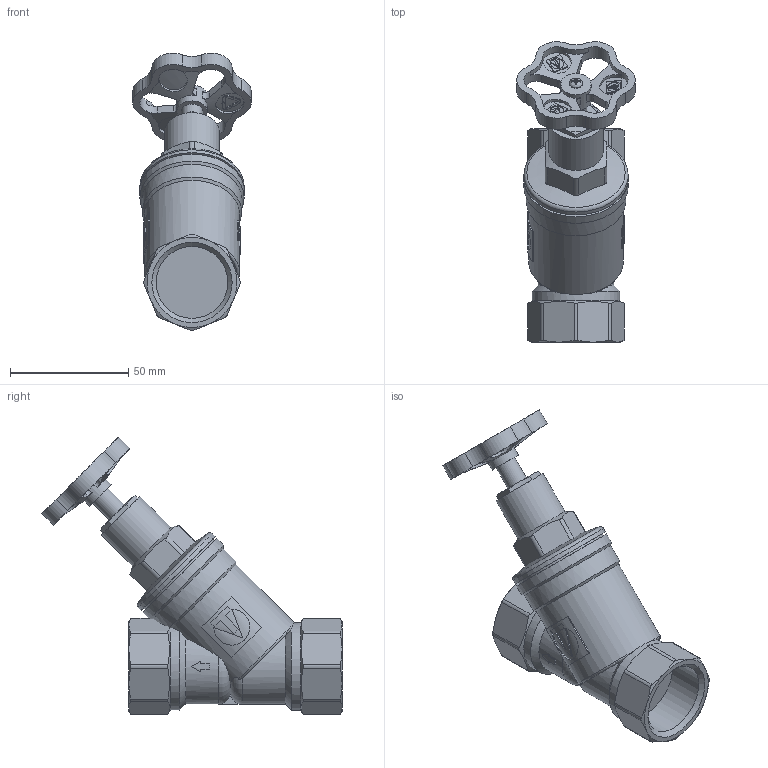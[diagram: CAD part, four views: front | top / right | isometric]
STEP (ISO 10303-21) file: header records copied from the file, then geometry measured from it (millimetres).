
FILE_DESCRIPTION(('STEP AP203'), '1');
FILE_NAME('VT.052.N.06', '', ('UNSPECIFIED'), ('UNSPECIFIED'), 'C3D Converter', 'C3D Toolkit', '');
FILE_SCHEMA(('CONFIG_CONTROL_DESIGN'));
Length unit declared in the file: millimetre
Products named in the file (1): ВР.491212.003.000 СБ
Bounding box: 50 x 126.7 x 117.1 mm (x, y, z)
Volume: 140135.1 mm3; surface area: 30009.7 mm2
Topology: 1 solids, 1 shells, 533 faces, 1479 edges, 976 vertices
Faces by surface type: plane 231, extrusion 131, cylinder 112, cone 50, torus 8, bspline 1
Full cylindrical faces by diameter (mm): 9 x1, 9.5 x1, 12 x6, 12.8 x1, 23 x1, 30.292 x2, 37 x1, 41 x1, 41.5 x1, 44 x2
Entity records: 31317 total; most frequent: CARTESIAN_POINT 19153, ORIENTED_EDGE 2866, DIRECTION 1842, EDGE_CURVE 1433, VERTEX_POINT 967, B_SPLINE_CURVE_WITH_KNOTS 789, VECTOR 646, EDGE_LOOP 602
